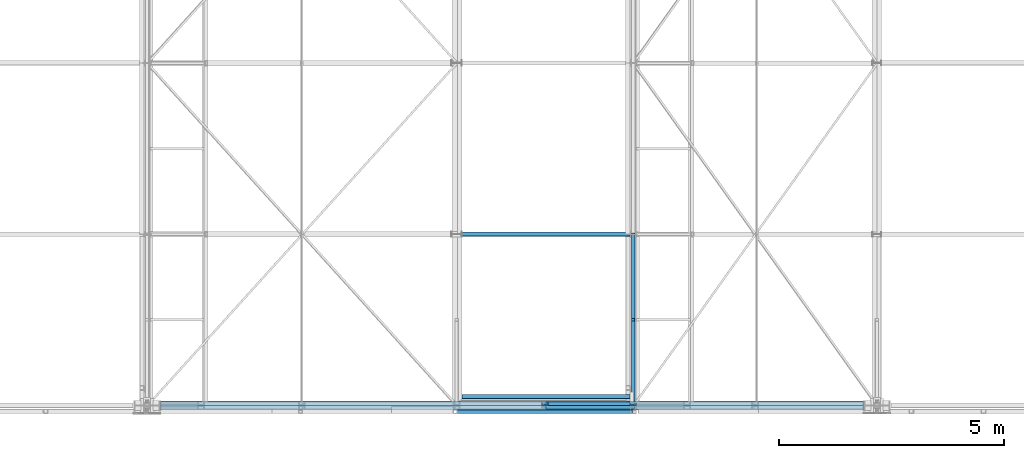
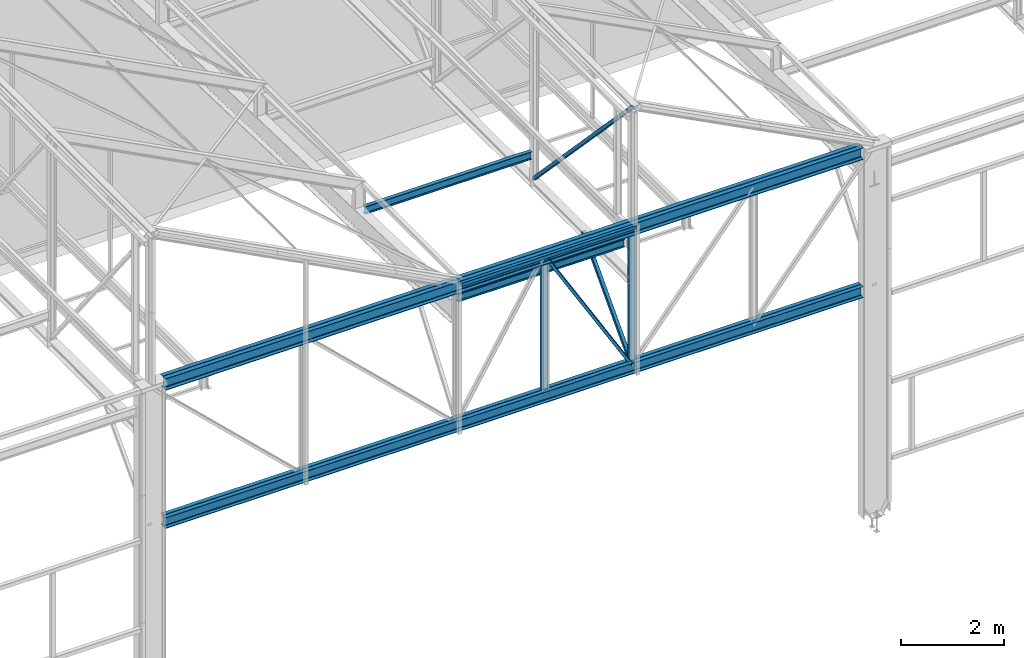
# One storey, part 30 of 123: 9 beams, 4 members, 13 elements without a shape of their own.
"""IFC2X3 building model written with IfcOpenShell, lengths in millimetres."""

from ifc_helpers import new_model, si_unit, frame, origin_with_axes, origin_2d_with_axis, place, context, subcontext, project, spatial, hollow_rectangle, i_section, l_section, u_section, extrude, material, type_object, element, aggregate, save


model = new_model("IFC2X3")

# Units and contexts
model_context = context("Model", 3, precision=1e-05, world=origin_with_axes())
body_context = subcontext(model_context, "Body", "Model", "MODEL_VIEW")
ifc_project = project(units=[si_unit("LENGTHUNIT", "METRE", prefix="MILLI"), si_unit("AREAUNIT", "SQUARE_METRE"), si_unit("VOLUMEUNIT", "CUBIC_METRE"), si_unit("MASSUNIT", "GRAM", prefix="KILO"), si_unit("TIMEUNIT", "SECOND"), si_unit("PLANEANGLEUNIT", "RADIAN"), si_unit("SOLIDANGLEUNIT", "STERADIAN"), si_unit("THERMODYNAMICTEMPERATUREUNIT", "DEGREE_CELSIUS"), si_unit("LUMINOUSINTENSITYUNIT", "LUMEN")], contexts=[model_context])

# Site, building, storey
site_placement = place(None, origin_with_axes())
site = spatial("IfcSite", under=ifc_project, at=site_placement, Name="Undefined", CompositionType="ELEMENT")
building_placement = place(site_placement, origin_with_axes())
building = spatial("IfcBuilding", under=site, at=building_placement, Name="Undefined", CompositionType="ELEMENT")
storey_placement = place(building_placement, origin_with_axes())
storey = spatial("IfcBuildingStorey", under=building, at=storey_placement, Name="Undefined", CompositionType="ELEMENT", Elevation=0.0)

# Assembly, member
assembly_1_placement = place(storey_placement, origin_with_axes())
assembly_1 = element("IfcElementAssembly", 1, at=assembly_1_placement, inside=storey, Name="Steel Assembly", AssemblyPlace="NOTDEFINED", PredefinedType="RIGID_FRAME")
ifc_material_1 = material(Name="STEEL/S235-E24")
member_type_1 = type_object("IfcMemberType", Name="L70*7", PredefinedType="NOTDEFINED")
member_1_placement = place(assembly_1_placement, frame((21510.0000000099, 40.0000000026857, 8409.99444626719), z_axis=(-0.858414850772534, 0.0, -0.512956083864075), x_axis=(0.512956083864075, 0.0, -0.858414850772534)))
member_1 = element("IfcMember", 2, at=member_1_placement, type_object=member_type_1, material=ifc_material_1, Name="DIAGONALE", ObjectType="L70*7", context=body_context, shape_type="SweptSolid", body=[
    extrude(l_section(Depth=70.0, Width=70.0, Thickness=7.0, FilletRadius=9.0, EdgeRadius=4.5, at=origin_2d_with_axis()), frame((3820.98986750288, 7.105427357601e-15, 0.0), z_axis=(-1.0, 0.0, 0.0), x_axis=(0.0, -1.0, 0.0)), (0.0, 0.0, 1.0), 3821.0),
])
aggregate(assembly_1, [member_1])

assembly_2_placement = place(storey_placement, origin_with_axes())
assembly_2 = element("IfcElementAssembly", 3, at=assembly_2_placement, inside=storey, Name="Steel Assembly", AssemblyPlace="NOTDEFINED", PredefinedType="RIGID_FRAME")
member_2_placement = place(assembly_2_placement, frame((23469.9999999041, -40.0000000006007, 5130.00000120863), z_axis=(-0.858414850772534, 0.0, -0.512956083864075), x_axis=(-0.512956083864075, 0.0, 0.858414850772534)))
member_2 = element("IfcMember", 4, at=member_2_placement, type_object=member_type_1, material=ifc_material_1, Name="DIAGONALE", ObjectType="L70*7", context=body_context, shape_type="SweptSolid", body=[
    extrude(l_section(Depth=70.0, Width=70.0, Thickness=7.0, FilletRadius=9.0, EdgeRadius=4.5, at=origin_2d_with_axis()), frame((3820.98986750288, 7.105427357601e-15, 0.0), z_axis=(-1.0, 0.0, 0.0), x_axis=(0.0, -1.0, 0.0)), (0.0, 0.0, 1.0), 3821.0),
])
aggregate(assembly_2, [member_2])

# Assembly, beam
assembly_3_placement = place(storey_placement, origin_with_axes())
assembly_3 = element("IfcElementAssembly", 5, at=assembly_3_placement, inside=storey, Name="Steel Assembly", AssemblyPlace="NOTDEFINED", PredefinedType="RIGID_FRAME")
ifc_material_2 = material(Name="STEEL/S275-E28")
beam_type_1 = type_object("IfcBeamType", Name="UPN140", PredefinedType="NOTDEFINED")
beam_1_placement = place(assembly_3_placement, frame((21510.0, 35.0, 8269.99444626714), z_axis=(-1.0, 0.0, 0.0), x_axis=(0.0, 0.0, -1.0)))
beam_1 = element("IfcBeam", 6, at=beam_1_placement, type_object=beam_type_1, material=ifc_material_2, Name="MONTANT", ObjectType="UPN140", context=body_context, shape_type="SweptSolid", body=[
    extrude(u_section(Depth=140.0, FlangeWidth=60.0, WebThickness=7.0, FlangeThickness=10.0, FilletRadius=10.0, EdgeRadius=5.0, FlangeSlope=0.0798299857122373, at=origin_2d_with_axis()), frame((3009.99444626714, 0.0, 0.0), z_axis=(-1.0, 0.0, 0.0), x_axis=(0.0, -1.0, 0.0)), (0.0, 0.0, 1.0), 3010.0),
])
aggregate(assembly_3, [beam_1])

assembly_4_placement = place(storey_placement, origin_with_axes())
assembly_4 = element("IfcElementAssembly", 7, at=assembly_4_placement, inside=storey, Name="Steel Assembly", AssemblyPlace="NOTDEFINED", PredefinedType="RIGID_FRAME")
beam_2_placement = place(assembly_4_placement, frame((23470.0, 35.0, 8269.99444626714), z_axis=(-1.0, 0.0, 0.0), x_axis=(0.0, 0.0, -1.0)))
beam_2 = element("IfcBeam", 8, at=beam_2_placement, type_object=beam_type_1, material=ifc_material_2, Name="MONTANT", ObjectType="UPN140", context=body_context, shape_type="SweptSolid", body=[
    extrude(u_section(Depth=140.0, FlangeWidth=60.0, WebThickness=7.0, FlangeThickness=10.0, FilletRadius=10.0, EdgeRadius=5.0, FlangeSlope=0.0798299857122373, at=origin_2d_with_axis()), frame((3009.99444626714, 0.0, 0.0), z_axis=(-1.0, 0.0, 0.0), x_axis=(0.0, -1.0, 0.0)), (0.0, 0.0, 1.0), 3010.0),
])
aggregate(assembly_4, [beam_2])

assembly_5_placement = place(storey_placement, origin_with_axes())
assembly_5 = element("IfcElementAssembly", 9, at=assembly_5_placement, inside=storey, Name="Steel Assembly", AssemblyPlace="NOTDEFINED", PredefinedType="RIGID_FRAME")
beam_type_2 = type_object("IfcBeamType", Name="UPN280", PredefinedType="NOTDEFINED")
beam_3_placement = place(assembly_5_placement, frame((12980.0, 52.5, 8409.99444626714), z_axis=(0.0, 0.0, -1.0), x_axis=(1.0, 0.0, 0.0)))
beam_3 = element("IfcBeam", 10, at=beam_3_placement, type_object=beam_type_2, material=ifc_material_2, Name="TRAVERSE HAUTE", ObjectType="UPN280", context=body_context, shape_type="SweptSolid", body=[
    extrude(u_section(Depth=280.0, FlangeWidth=95.0, WebThickness=10.0, FlangeThickness=15.0, FilletRadius=15.0, EdgeRadius=7.5, FlangeSlope=0.0798299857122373, at=origin_2d_with_axis()), frame((15600.0, 0.0, 0.0), z_axis=(-1.0, 0.0, 0.0), x_axis=(0.0, -1.0, 0.0)), (0.0, 0.0, 1.0), 15600.0),
])
aggregate(assembly_5, [beam_3])

assembly_6_placement = place(storey_placement, origin_with_axes())
assembly_6 = element("IfcElementAssembly", 11, at=assembly_6_placement, inside=storey, Name="Steel Assembly", AssemblyPlace="NOTDEFINED", PredefinedType="RIGID_FRAME")
beam_4_placement = place(assembly_6_placement, frame((28580.0, -52.5, 8409.99444626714), z_axis=(0.0, 0.0, -1.0), x_axis=(-1.0, 0.0, 0.0)))
beam_4 = element("IfcBeam", 12, at=beam_4_placement, type_object=beam_type_2, material=ifc_material_2, Name="TRAVERSE HAUTE", ObjectType="UPN280", context=body_context, shape_type="SweptSolid", body=[
    extrude(u_section(Depth=280.0, FlangeWidth=95.0, WebThickness=10.0, FlangeThickness=15.0, FilletRadius=15.0, EdgeRadius=7.5, FlangeSlope=0.0798299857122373, at=origin_2d_with_axis()), frame((15600.0, 0.0, 0.0), z_axis=(-1.0, 0.0, 0.0), x_axis=(0.0, -1.0, 0.0)), (0.0, 0.0, 1.0), 15600.0),
])
aggregate(assembly_6, [beam_4])

assembly_7_placement = place(storey_placement, origin_with_axes())
assembly_7 = element("IfcElementAssembly", 13, at=assembly_7_placement, inside=storey, Name="Steel Assembly", AssemblyPlace="NOTDEFINED", PredefinedType="RIGID_FRAME")
beam_type_3 = type_object("IfcBeamType", Name="UPN260", PredefinedType="NOTDEFINED")
beam_5_placement = place(assembly_7_placement, frame((28580.0, 50.0, 5130.0), z_axis=(0.0, 0.0, 1.0), x_axis=(-1.0, 0.0, 0.0)))
beam_5 = element("IfcBeam", 14, at=beam_5_placement, type_object=beam_type_3, material=ifc_material_2, Name="TRAVERSE BASSE", ObjectType="UPN260", context=body_context, shape_type="SweptSolid", body=[
    extrude(u_section(Depth=260.0, FlangeWidth=90.0, WebThickness=10.0, FlangeThickness=14.0, FilletRadius=14.0, EdgeRadius=7.0, FlangeSlope=0.0798299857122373, at=origin_2d_with_axis()), frame((15600.0, 0.0, 0.0), z_axis=(-1.0, 0.0, 0.0), x_axis=(0.0, -1.0, 0.0)), (0.0, 0.0, 1.0), 15600.0),
])
aggregate(assembly_7, [beam_5])

assembly_8_placement = place(storey_placement, origin_with_axes())
assembly_8 = element("IfcElementAssembly", 15, at=assembly_8_placement, inside=storey, Name="Steel Assembly", AssemblyPlace="NOTDEFINED", PredefinedType="RIGID_FRAME")
beam_6_placement = place(assembly_8_placement, frame((12980.0, -50.0, 5130.0), z_axis=(0.0, 0.0, 1.0), x_axis=(1.0, 0.0, 0.0)))
beam_6 = element("IfcBeam", 16, at=beam_6_placement, type_object=beam_type_3, material=ifc_material_2, Name="TRAVERSE BASSE", ObjectType="UPN260", context=body_context, shape_type="SweptSolid", body=[
    extrude(u_section(Depth=260.0, FlangeWidth=90.0, WebThickness=10.0, FlangeThickness=14.0, FilletRadius=14.0, EdgeRadius=7.0, FlangeSlope=0.0798299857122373, at=origin_2d_with_axis()), frame((15600.0, 0.0, 0.0), z_axis=(-1.0, 0.0, 0.0), x_axis=(0.0, -1.0, 0.0)), (0.0, 0.0, 1.0), 15600.0),
])
aggregate(assembly_8, [beam_6])

# Assembly, member
assembly_9_placement = place(storey_placement, origin_with_axes())
assembly_9 = element("IfcElementAssembly", 17, at=assembly_9_placement, inside=storey, Name="Steel Assembly", AssemblyPlace="NOTDEFINED", PredefinedType="RIGID_FRAME")
member_type_2 = type_object("IfcMemberType", Name="TUBE-C-80*80*4", PredefinedType="NOTDEFINED")
member_3_placement = place(assembly_9_placement, frame((23470.0, 1900.00000000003, 7164.50000000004), z_axis=(1.0, 0.0, 0.0), x_axis=(0.0, -0.682535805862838, -0.730852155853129)))
member_3 = element("IfcMember", 18, at=member_3_placement, type_object=member_type_2, material=ifc_material_1, Name="BUTON", ObjectType="TUBE-C-80*80*4", context=body_context, shape_type="SweptSolid", body=[
    extrude(hollow_rectangle(XDim=80.0, YDim=80.0, WallThickness=4.0, InnerFilletRadius=4.0, OuterFilletRadius=8.0, at=origin_2d_with_axis()), frame((2783.73674222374, 0.0, 0.0), z_axis=(-1.0, 0.0, 0.0), x_axis=(0.0, -1.0, 0.0)), (0.0, 0.0, 1.0), 2783.7),
])
aggregate(assembly_9, [member_3])

assembly_10_placement = place(storey_placement, origin_with_axes())
assembly_10 = element("IfcElementAssembly", 19, at=assembly_10_placement, inside=storey, Name="Steel Assembly", AssemblyPlace="NOTDEFINED", PredefinedType="RIGID_FRAME")
member_4_placement = place(assembly_10_placement, frame((23470.0000000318, 0.00552228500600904, 11236.0), z_axis=(-1.0, 0.0, 0.0), x_axis=(0.0, 0.690017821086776, -0.723792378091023)))
member_4 = element("IfcMember", 20, at=member_4_placement, type_object=member_type_2, material=ifc_material_1, Name="DIAGONALE", ObjectType="TUBE-C-80*80*4", context=body_context, shape_type="SweptSolid", body=[
    extrude(hollow_rectangle(XDim=80.0, YDim=80.0, WallThickness=4.0, InnerFilletRadius=4.0, OuterFilletRadius=8.0, at=origin_2d_with_axis()), frame((5507.10413919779, -2.12469509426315e-12, 0.0), z_axis=(-1.0, 0.0, 0.0), x_axis=(0.0, -1.0, 0.0)), (0.0, 0.0, 1.0), 5507.1),
])
aggregate(assembly_10, [member_4])

# Assembly, beam
assembly_11_placement = place(storey_placement, origin_with_axes())
assembly_11 = element("IfcElementAssembly", 21, at=assembly_11_placement, inside=storey, Name="Steel Assembly", AssemblyPlace="NOTDEFINED", PredefinedType="RIGID_FRAME")
beam_type_4 = type_object("IfcBeamType", Name="TUBE-C-80*80*4", PredefinedType="NOTDEFINED")
beam_7_placement = place(assembly_11_placement, frame((19560.0, -140.0, 8510.0), z_axis=(0.0, 0.0, 1.0), x_axis=(1.0, 0.0, 0.0)))
beam_7 = element("IfcBeam", 22, at=beam_7_placement, type_object=beam_type_4, material=ifc_material_1, Name="LISSE ACROTERE", ObjectType="TUBE-C-80*80*4", context=body_context, shape_type="SweptSolid", body=[
    extrude(hollow_rectangle(XDim=80.0, YDim=80.0, WallThickness=4.0, InnerFilletRadius=4.0, OuterFilletRadius=8.0, at=origin_2d_with_axis()), frame((3900.00000005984, 0.0, 0.0), z_axis=(-1.0, 0.0, 0.0), x_axis=(0.0, -1.0, 0.0)), (0.0, 0.0, 1.0), 3900.0),
])
aggregate(assembly_11, [beam_7])

assembly_12_placement = place(storey_placement, origin_with_axes())
assembly_12 = element("IfcElementAssembly", 23, at=assembly_12_placement, inside=storey, Name="Steel Assembly", AssemblyPlace="NOTDEFINED", PredefinedType="RIGID_FRAME")
beam_type_5 = type_object("IfcBeamType", Name="IPE180", PredefinedType="NOTDEFINED")
beam_8_placement = place(assembly_12_placement, frame((19664.9999999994, 3799.99999999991, 7840.53573261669), z_axis=(0.0, 0.0314107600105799, 0.999506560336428), x_axis=(1.0, 0.0, 0.0)))
beam_8 = element("IfcBeam", 24, at=beam_8_placement, type_object=beam_type_5, material=ifc_material_2, Name="PANNE", ObjectType="IPE180", context=body_context, shape_type="SweptSolid", body=[
    extrude(i_section(OverallWidth=91.0, OverallDepth=180.0, WebThickness=5.300000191, FlangeThickness=8.0, FilletRadius=9.0, at=origin_2d_with_axis()), frame((3729.99999999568, 0.0, 0.0), z_axis=(-1.0, 0.0, 0.0), x_axis=(0.0, -1.0, 0.0)), (0.0, 0.0, 1.0), 3730.0),
])
aggregate(assembly_12, [beam_8])

assembly_13_placement = place(storey_placement, origin_with_axes())
assembly_13 = element("IfcElementAssembly", 25, at=assembly_13_placement, inside=storey, Name="Steel Assembly", AssemblyPlace="NOTDEFINED", PredefinedType="RIGID_FRAME")
beam_9_placement = place(assembly_13_placement, frame((19665.0000000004, 197.173030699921, 7953.75915581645), z_axis=(0.0, 0.0314107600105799, 0.999506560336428), x_axis=(1.0, 0.0, 0.0)))
beam_9 = element("IfcBeam", 26, at=beam_9_placement, type_object=beam_type_5, material=ifc_material_2, Name="PANNE", ObjectType="IPE180", context=body_context, shape_type="SweptSolid", body=[
    extrude(i_section(OverallWidth=91.0, OverallDepth=180.0, WebThickness=5.300000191, FlangeThickness=8.0, FilletRadius=9.0, at=origin_2d_with_axis()), frame((3729.99999999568, 0.0, 0.0), z_axis=(-1.0, 0.0, 0.0), x_axis=(0.0, -1.0, 0.0)), (0.0, 0.0, 1.0), 3730.0),
])
aggregate(assembly_13, [beam_9])

save(model, "model.ifc")
